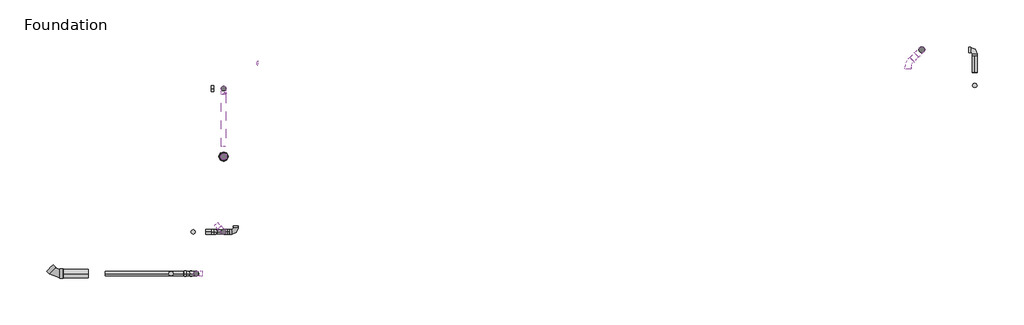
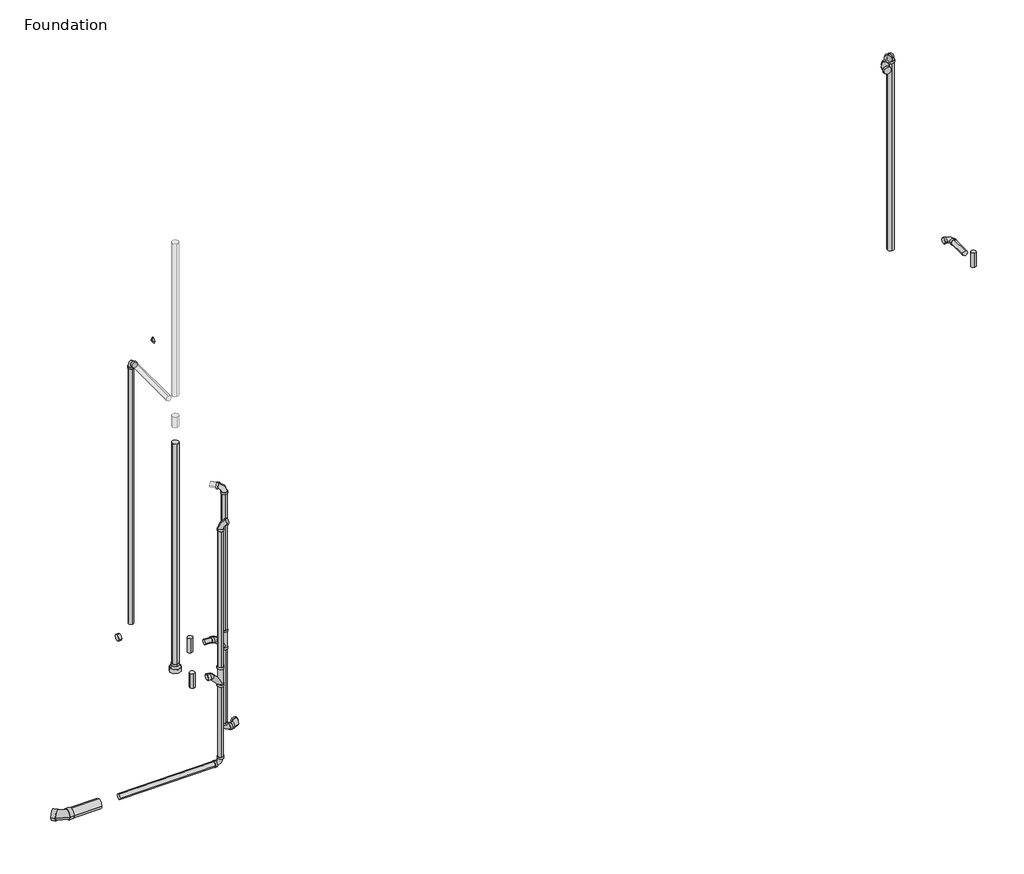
# One storey, incomplete: 22 pipe segments, 14 pipe fittings.
"""IFC4 building model written with IfcOpenShell, lengths in millimetres."""

from ifc_helpers import new_model, si_unit, point, frame, frame_2d, origin, place, context, project, spatial, circle_curve, trimmed, segment, composite_curve, outline, extrude, transform, mapped, element, save
from components import bend_pvc_sch_40_dwv_standard_230d167c, bend_pvc_sch_40_dwv_standard_71e1cde9, bend_pvc_sch_40_dwv_standard_5453613f, bend_pvc_sch_40_dwv_standard_738aab8b, bend_pvc_sch_40_dwv_standard_6980ba03, bend_pvc_sch_40_dwv_standard_78acf712, bend_pvc_sch_40_dwv_standard_75b824f9, bend_pvc_sch_40_dwv_standard_45c6c071, pipe_transition_copper_k_df3eef9c, reducer_pvc_sch_40_dwv_standard_e27c0a4c, standard_bea11b30

model = new_model("IFC4")

# Units and contexts
model_context = context("Model", 3, world=origin())
ifc_project = project(units=[si_unit("LENGTHUNIT", "METRE", prefix="MILLI")], contexts=[model_context])

# Site, building, storey
site = spatial("IfcSite", under=ifc_project)
building = spatial("IfcBuilding", under=site)
storey = spatial("IfcBuildingStorey", under=building, Name="Foundation", Elevation=-355.6)

# Pipe fittings
placement = place(None, origin())
bend_pvc_sch_40_dwv_standard_shape = bend_pvc_sch_40_dwv_standard_230d167c(model_context)
element("IfcPipeFitting", 1, ObjectType="Bend - PVC - Sch 40 - DWV : Standard", at=placement, inside=storey, context=model_context, shape_type="MappedRepresentation", body=[
    mapped(bend_pvc_sch_40_dwv_standard_shape, transform((680.7886238, 5544.3293502, 578.0503805), x_axis=(0.0, 0.9999457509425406, -0.01041610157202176), y_axis=(-0.9999999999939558, -3.621531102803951e-08, -3.476669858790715e-06), z_axis=(-3.476858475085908e-06, 0.010416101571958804, 0.9999457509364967))),
])
bend_pvc_sch_40_dwv_standard_2_shape = bend_pvc_sch_40_dwv_standard_71e1cde9(model_context)
element("IfcPipeFitting", 2, ObjectType="Bend - PVC - Sch 40 - DWV : Standard", at=placement, inside=storey, context=model_context, shape_type="MappedRepresentation", body=[
    mapped(bend_pvc_sch_40_dwv_standard_2_shape, transform((123.6124949, 5544.3293502, 2604.981292), x_axis=(0.0, 0.0, 1.0), y_axis=(-0.7071259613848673, -0.7070876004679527, 0.0), z_axis=(0.7070876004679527, -0.7071259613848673, 0.0))),
])
bend_pvc_sch_40_dwv_standard_3_shape = bend_pvc_sch_40_dwv_standard_5453613f(model_context)
element("IfcPipeFitting", 3, ObjectType="Bend - PVC - Sch 40 - DWV : Standard", at=placement, inside=storey, context=model_context, shape_type="MappedRepresentation", body=[
    mapped(bend_pvc_sch_40_dwv_standard_3_shape, transform((-20.9709, 5399.7537989, 2606.4872873), x_axis=(-0.7071067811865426, -0.7070684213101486, 0.007365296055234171), y_axis=(0.7071067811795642, -0.7070684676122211, 0.00736085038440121), z_axis=(3.1437344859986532e-06, 0.01041295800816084, 0.9999457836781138))),
])
bend_pvc_sch_40_dwv_standard_4_shape = bend_pvc_sch_40_dwv_standard_738aab8b(model_context)
element("IfcPipeFitting", 4, ObjectType="Bend - PVC - Sch 40 - DWV : Standard", at=placement, inside=storey, context=model_context, shape_type="MappedRepresentation", body=[
    mapped(bend_pvc_sch_40_dwv_standard_4_shape, transform((-7218.427007, 3626.5382812, -333.4415741), x_axis=(0.0, 0.0, -1.0), y_axis=(1.0, 0.0, 0.0), z_axis=(0.0, -1.0, 0.0))),
])
element("IfcPipeFitting", 5, ObjectType="Bend - PVC - Sch 40 - DWV : Standard", at=placement, inside=storey, context=model_context, shape_type="MappedRepresentation", body=[
    mapped(bend_pvc_sch_40_dwv_standard_4_shape, transform((-7218.392535, 5136.4368489, 2379.4582622), x_axis=(0.0, 0.0, 1.0), y_axis=(-2.4864489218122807e-05, -0.9999999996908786, 0.0), z_axis=(0.9999999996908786, -2.4864489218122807e-05, 0.0))),
])
element("IfcPipeFitting", 6, ObjectType="Bend - PVC - Sch 40 - DWV : Standard", at=placement, inside=storey, context=model_context, shape_type="MappedRepresentation", body=[
    mapped(bend_pvc_sch_40_dwv_standard_4_shape, transform((-7090.6282635, 3626.5380243, -333.4910354), x_axis=(1.0, 0.0, 0.0), y_axis=(0.0, 0.9999865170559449, -0.0051928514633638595), z_axis=(0.0, 0.0051928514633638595, 0.9999865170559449))),
])
bend_pvc_sch_40_dwv_standard_5_shape = bend_pvc_sch_40_dwv_standard_6980ba03(model_context)
element("IfcPipeFitting", 7, ObjectType="Bend - PVC - Sch 40 - DWV : Standard", at=placement, inside=storey, context=model_context, shape_type="MappedRepresentation", body=[
    mapped(bend_pvc_sch_40_dwv_standard_5_shape, transform((-7218.427698, 3626.5377459, 2055.9347465), x_axis=(0.0, 0.0, 1.0), y_axis=(-0.7071067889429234, 0.7071067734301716, 0.0), z_axis=(-0.7071067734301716, -0.7071067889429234, 0.0))),
])
bend_pvc_sch_40_dwv_standard_6_shape = bend_pvc_sch_40_dwv_standard_78acf712(model_context)
element("IfcPipeFitting", 8, ObjectType="Bend - PVC - Sch 40 - DWV : Standard", at=placement, inside=storey, context=model_context, shape_type="MappedRepresentation", body=[
    mapped(bend_pvc_sch_40_dwv_standard_6_shape, transform((-7506.7354164, 3186.6183565, -302.3827968), x_axis=(0.0, 0.0, -1.0), y_axis=(-1.0, 0.0, 0.0), z_axis=(0.0, 1.0, 0.0))),
])
bend_pvc_sch_40_dwv_standard_7_shape = bend_pvc_sch_40_dwv_standard_75b824f9(model_context)
element("IfcPipeFitting", 9, ObjectType="Bend - PVC - Sch 40 - DWV : Standard", at=placement, inside=storey, context=model_context, shape_type="MappedRepresentation", body=[
    mapped(bend_pvc_sch_40_dwv_standard_7_shape, transform((-8986.067891, 3186.6183565, -317.79251), x_axis=(0.7073973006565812, -0.7067779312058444, 0.0073494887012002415), y_axis=(0.706739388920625, 0.7074354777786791, 0.007381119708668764), z_axis=(-0.010416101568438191, -2.7211004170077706e-05, 0.9999457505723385))),
])
bend_pvc_sch_40_dwv_standard_8_shape = bend_pvc_sch_40_dwv_standard_45c6c071(model_context)
element("IfcPipeFitting", 10, ObjectType="Bend - PVC - Sch 40 - DWV : Standard", at=placement, inside=storey, context=model_context, shape_type="MappedRepresentation", body=[
    mapped(bend_pvc_sch_40_dwv_standard_8_shape, transform((-7506.7354164, 3186.6183565, 2055.9287732), x_axis=(0.0, 0.0, 1.0), y_axis=(0.9999999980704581, 6.212152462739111e-05, 0.0), z_axis=(-6.212152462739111e-05, 0.9999999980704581, 0.0))),
])
pipe_transition_copper_k_shape = pipe_transition_copper_k_df3eef9c(model_context)
element("IfcPipeFitting", 11, ObjectType="Pipe Transition : Copper- K", at=placement, inside=storey, context=model_context, shape_type="MappedRepresentation", body=[
    mapped(pipe_transition_copper_k_shape, transform((-6856.763787, 5402.6740168, 2298.1907004), x_axis=(-1.0, 0.0, 0.0), y_axis=(0.0, -1.0, 0.0), z_axis=(0.0, 0.0, 1.0))),
])
reducer_pvc_sch_40_dwv_standard_shape = reducer_pvc_sch_40_dwv_standard_e27c0a4c(model_context)
element("IfcPipeFitting", 12, ObjectType="Reducer - PVC - Sch 40 - DWV : Standard", at=placement, inside=storey, context=model_context, shape_type="MappedRepresentation", body=[
    mapped(reducer_pvc_sch_40_dwv_standard_shape, transform((-7218.0890801, 4419.0219292, -244.8610496), x_axis=(-5.7243063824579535e-06, 0.0, 0.9999999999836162), y_axis=(0.9999999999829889, -1.1201590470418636e-06, 5.724306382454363e-06), z_axis=(1.120159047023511e-06, 0.9999999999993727, 6.4121335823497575e-12))),
])
standard_shape = standard_bea11b30(model_context)
element("IfcPipeFitting", 13, ObjectType="GES Wye Combination with 8th Bend - PVC - Sch 40 - DWV : Standard", at=placement, inside=storey, context=model_context, shape_type="MappedRepresentation", body=[
    mapped(standard_shape, transform((-7218.427007, 3626.5382812, 579.3065481), x_axis=(0.0, 0.0, 1.0), y_axis=(1.0, 0.0, 0.0), z_axis=(0.0, 1.0, 0.0))),
])
element("IfcPipeFitting", 14, ObjectType="GES Wye Combination with 8th Bend - PVC - Sch 40 - DWV : Standard", at=placement, inside=storey, context=model_context, shape_type="MappedRepresentation", body=[
    mapped(standard_shape, transform((-7506.7354164, 3186.6183565, 579.3065481), x_axis=(0.0, 0.0, 1.0), y_axis=(1.0, 0.0, 0.0), z_axis=(0.0, 1.0, 0.0))),
])

# Pipe segments
element("IfcPipeSegment", 15, ObjectType="PVC - SAN/STORM", at=placement, inside=storey, context=model_context, shape_type="SweptSolid", body=[
    extrude(outline(composite_curve([segment(trimmed(circle_curve(frame_2d((0.0, -24.1299999)), 24.13), [point((24.13, -24.1299999))], [point((0.0, -48.26))], False, "CARTESIAN"), True, "CONTINUOUS"), segment(trimmed(circle_curve(frame_2d((0.0, -24.1299999)), 24.13), [point((0.0, -48.26))], [point((-24.13, -24.1299999))], False, "CARTESIAN"), True, "CONTINUOUS"), segment(trimmed(circle_curve(frame_2d((0.0, -24.1299999)), 24.13), [point((-24.13, -24.1299999))], [point((0.0, 0.0))], False, "CARTESIAN"), True, "CONTINUOUS"), segment(trimmed(circle_curve(frame_2d((0.0, -24.1299999)), 24.13), [point((0.0, 0.0))], [point((24.13, -24.1299999))], False, "CARTESIAN"), True, "CONTINUOUS")], self_intersect=False)), frame((680.7886238, 5482.6842488, 602.823826), z_axis=(0.0, -0.9999457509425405, 0.01041610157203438), x_axis=(1.0, 0.0, 0.0)), (0.0, 0.0, 1.0), 179.4002),
])
element("IfcPipeSegment", 16, ObjectType="PVC - SAN/STORM", at=placement, inside=storey, context=model_context, shape_type="SweptSolid", body=[
    extrude(outline(composite_curve([segment(trimmed(circle_curve(frame_2d((680.7886238, 5168.1176405)), 24.13), [point((656.6586238, 5168.1176405))], [point((680.7886238, 5192.2476405))], False, "CARTESIAN"), True, "CONTINUOUS"), segment(trimmed(circle_curve(frame_2d((680.7886238, 5168.1176405)), 24.13), [point((680.7886238, 5192.2476405))], [point((704.9186238, 5168.1176405))], False, "CARTESIAN"), True, "CONTINUOUS"), segment(trimmed(circle_curve(frame_2d((680.7886238, 5168.1176405)), 24.13), [point((704.9186238, 5168.1176405))], [point((680.7886238, 5143.9876405))], False, "CARTESIAN"), True, "CONTINUOUS"), segment(trimmed(circle_curve(frame_2d((680.7886238, 5168.1176405)), 24.13), [point((680.7886238, 5143.9876405))], [point((656.6586238, 5168.1176405))], False, "CARTESIAN"), True, "CONTINUOUS")], self_intersect=False)), frame((0.0, 0.0, 536.1010858), z_axis=(0.0, 0.0, 1.0), x_axis=(1.0, 0.0, 0.0)), (0.0, 0.0, 1.0), 139.7),
])
element("IfcPipeSegment", 17, ObjectType="PVC - SAN/STORM", at=placement, inside=storey, context=model_context, shape_type="SweptSolid", body=[
    extrude(outline(composite_curve([segment(trimmed(circle_curve(frame_2d((123.6124949, 5544.3293502)), 30.1625), [point((93.4499949, 5544.3293502))], [point((123.6124949, 5574.4918502))], False, "CARTESIAN"), True, "CONTINUOUS"), segment(trimmed(circle_curve(frame_2d((123.6124949, 5544.3293502)), 30.1625), [point((123.6124949, 5574.4918502))], [point((153.7749949, 5544.3293502))], False, "CARTESIAN"), True, "CONTINUOUS"), segment(trimmed(circle_curve(frame_2d((123.6124949, 5544.3293502)), 30.1625), [point((153.7749949, 5544.3293502))], [point((123.6124949, 5514.1668502))], False, "CARTESIAN"), True, "CONTINUOUS"), segment(trimmed(circle_curve(frame_2d((123.6124949, 5544.3293502)), 30.1625), [point((123.6124949, 5514.1668502))], [point((93.4499949, 5544.3293502))], False, "CARTESIAN"), True, "CONTINUOUS")], self_intersect=False)), frame((0.0, 0.0, 673.768492), z_axis=(0.0, 0.0, 1.0), x_axis=(1.0, 0.0, 0.0)), (0.0, 0.0, 1.0), 1853.4126),
])
element("IfcPipeSegment", 18, ObjectType="PVC - SAN/STORM", at=placement, inside=storey, context=model_context, shape_type="SweptSolid", body=[
    extrude(outline(composite_curve([segment(trimmed(circle_curve(frame_2d((0.0, 30.1625001)), 30.1625), [point((-30.1616818, 30.3846619))], [point((0.2221618, 60.3241818))], False, "CARTESIAN"), True, "CONTINUOUS"), segment(trimmed(circle_curve(frame_2d((0.0, 30.1625001)), 30.1625), [point((0.2221618, 60.3241818))], [point((30.1616818, 29.9403383))], False, "CARTESIAN"), True, "CONTINUOUS"), segment(trimmed(circle_curve(frame_2d((0.0, 30.1625001)), 30.1625), [point((30.1616818, 29.9403383))], [point((-0.2221618, 0.0008182))], False, "CARTESIAN"), True, "CONTINUOUS"), segment(trimmed(circle_curve(frame_2d((0.0, 30.1625001)), 30.1625), [point((-0.2221618, 0.0008182))], [point((-30.1616818, 30.3846619))], False, "CARTESIAN"), True, "CONTINUOUS")], self_intersect=False)), frame((68.5994459, 5489.00511, 2575.3934497), z_axis=(-0.7071067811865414, -0.7070684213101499, 0.007365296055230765), x_axis=(0.7071067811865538, -0.7070684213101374, 0.007365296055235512)), (0.0, 0.0, 1.0), 69.5215979),
])
element("IfcPipeSegment", 19, ObjectType="PVC - SAN/STORM", at=placement, inside=storey, context=model_context, shape_type="SweptSolid", body=[
    extrude(outline(composite_curve([segment(trimmed(circle_curve(frame_2d((3626.5382812, 579.3065481)), 24.13), [point((3602.4082812, 579.3065481))], [point((3626.5382812, 603.4365481))], False, "CARTESIAN"), True, "CONTINUOUS"), segment(trimmed(circle_curve(frame_2d((3626.5382812, 579.3065481)), 24.13), [point((3626.5382812, 603.4365481))], [point((3650.6682812, 579.3065481))], False, "CARTESIAN"), True, "CONTINUOUS"), segment(trimmed(circle_curve(frame_2d((3626.5382812, 579.3065481)), 24.13), [point((3650.6682812, 579.3065481))], [point((3626.5382812, 555.1765481))], False, "CARTESIAN"), True, "CONTINUOUS"), segment(trimmed(circle_curve(frame_2d((3626.5382812, 579.3065481)), 24.13), [point((3626.5382812, 555.1765481))], [point((3602.4082812, 579.3065481))], False, "CARTESIAN"), True, "CONTINUOUS")], self_intersect=False)), frame((-7403.5165491, 0.0, 0.0), z_axis=(1.0, 0.0, 0.0), x_axis=(0.0, 1.0, 0.0)), (0.0, 0.0, 1.0), 60.7763859),
])
element("IfcPipeSegment", 20, ObjectType="PVC - SAN/STORM", at=placement, inside=storey, context=model_context, shape_type="SweptSolid", body=[
    extrude(outline(composite_curve([segment(trimmed(circle_curve(frame_2d((-7538.4413491, 3626.5382812)), 24.13), [point((-7562.5713491, 3626.5382812))], [point((-7538.4413491, 3650.6682812))], False, "CARTESIAN"), True, "CONTINUOUS"), segment(trimmed(circle_curve(frame_2d((-7538.4413491, 3626.5382812)), 24.13), [point((-7538.4413491, 3650.6682812))], [point((-7514.3113491, 3626.5382812))], False, "CARTESIAN"), True, "CONTINUOUS"), segment(trimmed(circle_curve(frame_2d((-7538.4413491, 3626.5382812)), 24.13), [point((-7514.3113491, 3626.5382812))], [point((-7538.4413491, 3602.4082812))], False, "CARTESIAN"), True, "CONTINUOUS"), segment(trimmed(circle_curve(frame_2d((-7538.4413491, 3626.5382812)), 24.13), [point((-7538.4413491, 3602.4082812))], [point((-7562.5713491, 3626.5382812))], False, "CARTESIAN"), True, "CONTINUOUS")], self_intersect=False)), frame((0.0, 0.0, 534.8438481), z_axis=(0.0, 0.0, 1.0), x_axis=(1.0, 0.0, 0.0)), (0.0, 0.0, 1.0), 140.9572377),
])
element("IfcPipeSegment", 21, ObjectType="PVC - SAN/STORM", at=placement, inside=storey, context=model_context, shape_type="SweptSolid", body=[
    extrude(outline(composite_curve([segment(trimmed(circle_curve(frame_2d((0.0, 24.13)), 24.13), [point((-24.13, 24.13))], [point((0.0, 48.26))], False, "CARTESIAN"), True, "CONTINUOUS"), segment(trimmed(circle_curve(frame_2d((0.0, 24.13)), 24.13), [point((0.0, 48.26))], [point((24.13, 24.13))], False, "CARTESIAN"), True, "CONTINUOUS"), segment(trimmed(circle_curve(frame_2d((0.0, 24.13)), 24.13), [point((24.13, 24.13))], [point((0.0, 0.0))], False, "CARTESIAN"), True, "CONTINUOUS"), segment(trimmed(circle_curve(frame_2d((0.0, 24.13)), 24.13), [point((0.0, 0.0))], [point((-24.13, 24.13))], False, "CARTESIAN"), True, "CONTINUOUS")], self_intersect=False)), frame((-7218.427007, 3602.4082812, 647.0610385), z_axis=(-5.130539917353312e-07, -3.9741438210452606e-07, 0.9999999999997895), x_axis=(0.9999999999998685, 0.0, 5.130539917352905e-07)), (0.0, 0.0, 1.0), 1346.9738984),
])
element("IfcPipeSegment", 22, ObjectType="PVC - SAN/STORM", at=placement, inside=storey, context=model_context, shape_type="SweptSolid", body=[
    extrude(outline(composite_curve([segment(trimmed(circle_curve(frame_2d((0.0, -24.1299999)), 24.13), [point((-24.1299998, -24.1332562))], [point((-0.0032563, -2e-07))], False, "CARTESIAN"), True, "CONTINUOUS"), segment(trimmed(circle_curve(frame_2d((0.0, -24.1299999)), 24.13), [point((-0.0032563, -2e-07))], [point((24.1299998, -24.1267437))], False, "CARTESIAN"), True, "CONTINUOUS"), segment(trimmed(circle_curve(frame_2d((0.0, -24.1299999)), 24.13), [point((24.1299998, -24.1267437))], [point((0.0032562, -48.2599997))], False, "CARTESIAN"), True, "CONTINUOUS"), segment(trimmed(circle_curve(frame_2d((0.0, -24.1299999)), 24.13), [point((0.0032562, -48.2599997))], [point((-24.1299998, -24.1332562))], False, "CARTESIAN"), True, "CONTINUOUS")], self_intersect=False)), frame((-7262.1974664, 3670.3121183, 2031.8131001), z_axis=(-0.7071067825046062, 0.7071067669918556, 0.00013494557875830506), x_axis=(0.7071067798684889, 0.7071067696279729, 0.00013494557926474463)), (0.0, 0.0, 1.0), 52.2014083),
])
element("IfcPipeSegment", 23, ObjectType="PVC - SAN/STORM", at=placement, inside=storey, context=model_context, shape_type="SweptSolid", body=[
    extrude(outline(composite_curve([segment(trimmed(circle_curve(frame_2d((-7218.427007, 3626.5382812)), 24.13), [point((-7194.297007, 3626.5382812))], [point((-7218.427007, 3602.4082812))], False, "CARTESIAN"), True, "CONTINUOUS"), segment(trimmed(circle_curve(frame_2d((-7218.427007, 3626.5382812)), 24.13), [point((-7218.427007, 3602.4082812))], [point((-7242.557007, 3626.5382812))], False, "CARTESIAN"), True, "CONTINUOUS"), segment(trimmed(circle_curve(frame_2d((-7218.427007, 3626.5382812)), 24.13), [point((-7242.557007, 3626.5382812))], [point((-7218.427007, 3650.6682812))], False, "CARTESIAN"), True, "CONTINUOUS"), segment(trimmed(circle_curve(frame_2d((-7218.427007, 3626.5382812)), 24.13), [point((-7218.427007, 3650.6682812))], [point((-7194.297007, 3626.5382812))], False, "CARTESIAN"), True, "CONTINUOUS")], self_intersect=False)), frame((0.0, 0.0, -271.5417741), z_axis=(0.0, 0.0, 1.0), x_axis=(1.0, 0.0, 0.0)), (0.0, 0.0, 1.0), 728.0551973),
])
element("IfcPipeSegment", 24, ObjectType="PVC - SAN/STORM", at=placement, inside=storey, context=model_context, shape_type="SweptSolid", body=[
    extrude(outline(composite_curve([segment(trimmed(circle_curve(frame_2d((0.0, -24.13)), 24.13), [point((-0.1253046, -48.2596747))], [point((-24.1296746, -24.0046954))], False, "CARTESIAN"), True, "CONTINUOUS"), segment(trimmed(circle_curve(frame_2d((0.0, -24.13)), 24.13), [point((-24.1296746, -24.0046954))], [point((0.1253046, -0.0003254))], False, "CARTESIAN"), True, "CONTINUOUS"), segment(trimmed(circle_curve(frame_2d((0.0, -24.13)), 24.13), [point((0.1253046, -0.0003254))], [point((24.1296747, -24.2553046))], False, "CARTESIAN"), True, "CONTINUOUS"), segment(trimmed(circle_curve(frame_2d((0.0, -24.13)), 24.13), [point((24.1296747, -24.2553046))], [point((-0.1253046, -48.2596747))], False, "CARTESIAN"), True, "CONTINUOUS")], self_intersect=False)), frame((-7152.5280635, 3650.667699, -333.6163389), z_axis=(-0.9999915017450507, 2.1408431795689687e-05, 0.004122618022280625), x_axis=(0.0041226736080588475, 0.005192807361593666, 0.9999780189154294)), (0.0, 0.0, 1.0), 3.9991775),
])
element("IfcPipeSegment", 25, ObjectType="PVC - SAN/STORM", at=placement, inside=storey, context=model_context, shape_type="SweptSolid", body=[
    extrude(outline(composite_curve([segment(trimmed(circle_curve(frame_2d((0.0, 30.1625)), 30.1625), [point((-30.1625, 30.1625))], [point((0.0, 60.325))], False, "CARTESIAN"), True, "CONTINUOUS"), segment(trimmed(circle_curve(frame_2d((0.0, 30.1625)), 30.1625), [point((0.0, 60.325))], [point((30.1625, 30.1625))], False, "CARTESIAN"), True, "CONTINUOUS"), segment(trimmed(circle_curve(frame_2d((0.0, 30.1625)), 30.1625), [point((30.1625, 30.1625))], [point((0.0, 0.0))], False, "CARTESIAN"), True, "CONTINUOUS"), segment(trimmed(circle_curve(frame_2d((0.0, 30.1625)), 30.1625), [point((0.0, 0.0))], [point((-30.1625, 30.1625))], False, "CARTESIAN"), True, "CONTINUOUS")], self_intersect=False)), frame((-7218.4068974, 4388.5702261, 2482.6330622), z_axis=(-6.516036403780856e-06, 0.0, 0.9999999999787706), x_axis=(0.9999999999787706, 0.0, 6.516036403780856e-06)), (0.0, 0.0, 1.0), 1506.7381799),
])
element("IfcPipeSegment", 26, ObjectType="PVC - SAN/STORM", at=placement, inside=storey, context=model_context, shape_type="SweptSolid", body=[
    extrude(outline(composite_curve([segment(trimmed(circle_curve(frame_2d((-7218.1338831, 5136.4671175)), 24.13), [point((-7242.2638831, 5136.4671175))], [point((-7218.1338831, 5160.5971175))], False, "CARTESIAN"), True, "CONTINUOUS"), segment(trimmed(circle_curve(frame_2d((-7218.1338831, 5136.4671175)), 24.13), [point((-7218.1338831, 5160.5971175))], [point((-7194.0038831, 5136.4671175))], False, "CARTESIAN"), True, "CONTINUOUS"), segment(trimmed(circle_curve(frame_2d((-7218.1338831, 5136.4671175)), 24.13), [point((-7194.0038831, 5136.4671175))], [point((-7218.1338831, 5112.3371175))], False, "CARTESIAN"), True, "CONTINUOUS"), segment(trimmed(circle_curve(frame_2d((-7218.1338831, 5136.4671175)), 24.13), [point((-7218.1338831, 5112.3371175))], [point((-7242.2638831, 5136.4671175))], False, "CARTESIAN"), True, "CONTINUOUS")], self_intersect=False)), frame((0.0, 0.0, -207.7493189), z_axis=(0.0, 0.0, 1.0), x_axis=(1.0, 0.0, 0.0)), (0.0, 0.0, 1.0), 2525.3077811),
])
element("IfcPipeSegment", 27, ObjectType="PVC - SAN/STORM", at=placement, inside=storey, context=model_context, shape_type="SweptSolid", body=[
    extrude(outline(composite_curve([segment(trimmed(circle_curve(frame_2d((5136.4671175, -311.4496397)), 30.1625), [point((5166.6296175, -311.4496397))], [point((5136.4671175, -341.6121397))], False, "CARTESIAN"), True, "CONTINUOUS"), segment(trimmed(circle_curve(frame_2d((5136.4671175, -311.4496397)), 30.1625), [point((5136.4671175, -341.6121397))], [point((5106.3046175, -311.4496397))], False, "CARTESIAN"), True, "CONTINUOUS"), segment(trimmed(circle_curve(frame_2d((5136.4671175, -311.4496397)), 30.1625), [point((5106.3046175, -311.4496397))], [point((5136.4671175, -281.2871397))], False, "CARTESIAN"), True, "CONTINUOUS"), segment(trimmed(circle_curve(frame_2d((5136.4671175, -311.4496397)), 30.1625), [point((5136.4671175, -281.2871397))], [point((5166.6296175, -311.4496397))], False, "CARTESIAN"), True, "CONTINUOUS")], self_intersect=False)), frame((-7347.9228294, 0.0, 0.0), z_axis=(1.0, 0.0, 0.0), x_axis=(0.0, 1.0, 0.0)), (0.0, 0.0, 1.0), 26.6197435),
])
element("IfcPipeSegment", 28, ObjectType="PVC - SAN/STORM", at=placement, inside=storey, context=model_context, shape_type="SweptSolid", body=[
    extrude(outline(composite_curve([segment(trimmed(circle_curve(frame_2d((0.0, 24.13)), 24.13), [point((0.0, 48.26))], [point((24.13, 24.13))], False, "CARTESIAN"), True, "CONTINUOUS"), segment(trimmed(circle_curve(frame_2d((0.0, 24.13)), 24.13), [point((24.13, 24.13))], [point((0.0, 0.0))], False, "CARTESIAN"), True, "CONTINUOUS"), segment(trimmed(circle_curve(frame_2d((0.0, 24.13)), 24.13), [point((0.0, 0.0))], [point((-24.13, 24.13))], False, "CARTESIAN"), True, "CONTINUOUS"), segment(trimmed(circle_curve(frame_2d((0.0, 24.13)), 24.13), [point((-24.13, 24.13))], [point((0.0, 48.26))], False, "CARTESIAN"), True, "CONTINUOUS")], self_intersect=False)), frame((-7242.5362361, 4523.5082587, 2379.4582622), z_axis=(2.2071340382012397e-05, 0.999999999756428, 0.0), x_axis=(0.0, 0.0, 1.0)), (0.0, 0.0, 1.0), 551.0293229),
])
element("IfcPipeSegment", 29, ObjectType="PVC - SAN/STORM", at=placement, inside=storey, context=model_context, shape_type="SweptSolid", body=[
    extrude(outline(composite_curve([segment(trimmed(circle_curve(frame_2d((0.0, 30.1625)), 30.1625), [point((-30.1625, 30.1625))], [point((0.0, 60.325))], False, "CARTESIAN"), True, "CONTINUOUS"), segment(trimmed(circle_curve(frame_2d((0.0, 30.1625)), 30.1625), [point((0.0, 60.325))], [point((30.1625, 30.1625))], False, "CARTESIAN"), True, "CONTINUOUS"), segment(trimmed(circle_curve(frame_2d((0.0, 30.1625)), 30.1625), [point((30.1625, 30.1625))], [point((0.0, 0.0))], False, "CARTESIAN"), True, "CONTINUOUS"), segment(trimmed(circle_curve(frame_2d((0.0, 30.1625)), 30.1625), [point((0.0, 0.0))], [point((-30.1625, 30.1625))], False, "CARTESIAN"), True, "CONTINUOUS")], self_intersect=False)), frame((-7218.4058485, 4388.5708871, 2174.6163633), z_axis=(1.3015595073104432e-06, -6.5007602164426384e-06, 0.999999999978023), x_axis=(0.9999999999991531, 8.460787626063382e-12, -1.3015595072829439e-06)), (0.0, 0.0, 1.0), 101.6669028),
])
element("IfcPipeSegment", 30, ObjectType="PVC - SAN/STORM", at=placement, inside=storey, context=model_context, shape_type="SweptSolid", body=[
    extrude(outline(composite_curve([segment(trimmed(circle_curve(frame_2d((0.0, 30.1625)), 30.1625), [point((-30.1625, 30.1625))], [point((0.0, 60.325))], False, "CARTESIAN"), True, "CONTINUOUS"), segment(trimmed(circle_curve(frame_2d((0.0, 30.1625)), 30.1625), [point((0.0, 60.325))], [point((30.1625, 30.1625))], False, "CARTESIAN"), True, "CONTINUOUS"), segment(trimmed(circle_curve(frame_2d((0.0, 30.1625)), 30.1625), [point((30.1625, 30.1625))], [point((0.0, 0.0))], False, "CARTESIAN"), True, "CONTINUOUS"), segment(trimmed(circle_curve(frame_2d((0.0, 30.1625)), 30.1625), [point((0.0, 0.0))], [point((-30.1625, 30.1625))], False, "CARTESIAN"), True, "CONTINUOUS")], self_intersect=False)), frame((-7218.3925317, 4388.5708871, -165.4860513), z_axis=(-5.724306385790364e-06, 0.0, 0.9999999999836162), x_axis=(0.9999999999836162, 0.0, 5.724306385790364e-06)), (0.0, 0.0, 1.0), 2177.3084545),
])
element("IfcPipeSegment", 31, ObjectType="PVC - SAN/STORM", at=placement, inside=storey, context=model_context, shape_type="SweptSolid", body=[
    extrude(outline(composite_curve([segment(trimmed(circle_curve(frame_2d((3186.6183565, 579.3065481)), 24.13), [point((3162.4883565, 579.3065481))], [point((3186.6183565, 603.4365481))], False, "CARTESIAN"), True, "CONTINUOUS"), segment(trimmed(circle_curve(frame_2d((3186.6183565, 579.3065481)), 24.13), [point((3186.6183565, 603.4365481))], [point((3210.7483565, 579.3065481))], False, "CARTESIAN"), True, "CONTINUOUS"), segment(trimmed(circle_curve(frame_2d((3186.6183565, 579.3065481)), 24.13), [point((3210.7483565, 579.3065481))], [point((3186.6183565, 555.1765481))], False, "CARTESIAN"), True, "CONTINUOUS"), segment(trimmed(circle_curve(frame_2d((3186.6183565, 579.3065481)), 24.13), [point((3186.6183565, 555.1765481))], [point((3162.4883565, 579.3065481))], False, "CARTESIAN"), True, "CONTINUOUS")], self_intersect=False)), frame((-7636.2624586, 0.0, 0.0), z_axis=(1.0, 0.0, 0.0), x_axis=(0.0, 1.0, 0.0)), (0.0, 0.0, 1.0), 5.2138859),
])
element("IfcPipeSegment", 32, ObjectType="PVC - SAN/STORM", at=placement, inside=storey, context=model_context, shape_type="SweptSolid", body=[
    extrude(outline(composite_curve([segment(trimmed(circle_curve(frame_2d((-7771.1872586, 3186.5447806)), 24.13), [point((-7795.3172586, 3186.5447806))], [point((-7771.1872586, 3210.6747806))], False, "CARTESIAN"), True, "CONTINUOUS"), segment(trimmed(circle_curve(frame_2d((-7771.1872586, 3186.5447806)), 24.13), [point((-7771.1872586, 3210.6747806))], [point((-7747.0572586, 3186.5447806))], False, "CARTESIAN"), True, "CONTINUOUS"), segment(trimmed(circle_curve(frame_2d((-7771.1872586, 3186.5447806)), 24.13), [point((-7747.0572586, 3186.5447806))], [point((-7771.1872586, 3162.4147806))], False, "CARTESIAN"), True, "CONTINUOUS"), segment(trimmed(circle_curve(frame_2d((-7771.1872586, 3186.5447806)), 24.13), [point((-7771.1872586, 3162.4147806))], [point((-7795.3172586, 3186.5447806))], False, "CARTESIAN"), True, "CONTINUOUS")], self_intersect=False)), frame((0.0, 0.0, 534.8438481), z_axis=(0.0, 0.0, 1.0), x_axis=(1.0, 0.0, 0.0)), (0.0, 0.0, 1.0), 140.9572377),
])
element("IfcPipeSegment", 33, ObjectType="PVC - SAN/STORM", at=placement, inside=storey, context=model_context, shape_type="SweptSolid", body=[
    extrude(outline(composite_curve([segment(trimmed(circle_curve(frame_2d((-7506.7354164, 3186.6183565)), 24.13), [point((-7530.8654164, 3186.6183565))], [point((-7506.7354164, 3210.7483565))], False, "CARTESIAN"), True, "CONTINUOUS"), segment(trimmed(circle_curve(frame_2d((-7506.7354164, 3186.6183565)), 24.13), [point((-7506.7354164, 3210.7483565))], [point((-7482.6054164, 3186.6183565))], False, "CARTESIAN"), True, "CONTINUOUS"), segment(trimmed(circle_curve(frame_2d((-7506.7354164, 3186.6183565)), 24.13), [point((-7482.6054164, 3186.6183565))], [point((-7506.7354164, 3162.4883565))], False, "CARTESIAN"), True, "CONTINUOUS"), segment(trimmed(circle_curve(frame_2d((-7506.7354164, 3186.6183565)), 24.13), [point((-7506.7354164, 3162.4883565))], [point((-7530.8654164, 3186.6183565))], False, "CARTESIAN"), True, "CONTINUOUS")], self_intersect=False)), frame((0.0, 0.0, 647.0610481), z_axis=(0.0, 0.0, 1.0), x_axis=(1.0, 0.0, 0.0)), (0.0, 0.0, 1.0), 1346.9679251),
])
element("IfcPipeSegment", 34, ObjectType="PVC - SAN/STORM", at=placement, inside=storey, context=model_context, shape_type="SweptSolid", body=[
    extrude(outline(composite_curve([segment(trimmed(circle_curve(frame_2d((-7506.7354164, 3186.6183565)), 24.13), [point((-7482.6054164, 3186.6183565))], [point((-7506.7354164, 3162.4883565))], False, "CARTESIAN"), True, "CONTINUOUS"), segment(trimmed(circle_curve(frame_2d((-7506.7354164, 3186.6183565)), 24.13), [point((-7506.7354164, 3162.4883565))], [point((-7530.8654164, 3186.6183565))], False, "CARTESIAN"), True, "CONTINUOUS"), segment(trimmed(circle_curve(frame_2d((-7506.7354164, 3186.6183565)), 24.13), [point((-7530.8654164, 3186.6183565))], [point((-7506.7354164, 3210.7483565))], False, "CARTESIAN"), True, "CONTINUOUS"), segment(trimmed(circle_curve(frame_2d((-7506.7354164, 3186.6183565)), 24.13), [point((-7506.7354164, 3210.7483565))], [point((-7482.6054164, 3186.6183565))], False, "CARTESIAN"), True, "CONTINUOUS")], self_intersect=False)), frame((0.0, 0.0, -240.4829968), z_axis=(0.0, 0.0, 1.0), x_axis=(1.0, 0.0, 0.0)), (0.0, 0.0, 1.0), 696.9964199),
])
element("IfcPipeSegment", 35, ObjectType="PVC - SAN/STORM", at=placement, inside=storey, context=model_context, shape_type="SweptSolid", body=[
    extrude(outline(composite_curve([segment(trimmed(circle_curve(frame_2d((0.0, -44.45)), 44.45), [point((0.0, 0.0))], [point((44.4500001, -44.45))], False, "CARTESIAN"), True, "CONTINUOUS"), segment(trimmed(circle_curve(frame_2d((0.0, -44.45)), 44.45), [point((44.4500001, -44.45))], [point((0.0, -88.9))], False, "CARTESIAN"), True, "CONTINUOUS"), segment(trimmed(circle_curve(frame_2d((0.0, -44.45)), 44.45), [point((0.0, -88.9))], [point((-44.45, -44.45))], False, "CARTESIAN"), True, "CONTINUOUS"), segment(trimmed(circle_curve(frame_2d((0.0, -44.45)), 44.45), [point((-44.45, -44.45))], [point((0.0, 0.0))], False, "CARTESIAN"), True, "CONTINUOUS")], self_intersect=False)), frame((-8903.5223693, 3231.0683565, -316.9326608), z_axis=(0.9999457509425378, 0.0, 0.010416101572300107), x_axis=(0.010416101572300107, 0.0, -0.9999457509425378)), (0.0, 0.0, 1.0), 261.7278503),
])
element("IfcPipeSegment", 36, ObjectType="PVC - SAN/STORM", at=placement, inside=storey, context=model_context, shape_type="SweptSolid", body=[
    extrude(outline(composite_curve([segment(trimmed(circle_curve(frame_2d((0.0, -24.13)), 24.13), [point((0.0, 0.0))], [point((24.1299999, -24.13))], False, "CARTESIAN"), True, "CONTINUOUS"), segment(trimmed(circle_curve(frame_2d((0.0, -24.13)), 24.13), [point((24.1299999, -24.13))], [point((0.0, -48.26))], False, "CARTESIAN"), True, "CONTINUOUS"), segment(trimmed(circle_curve(frame_2d((0.0, -24.13)), 24.13), [point((0.0, -48.26))], [point((-24.13, -24.13))], False, "CARTESIAN"), True, "CONTINUOUS"), segment(trimmed(circle_curve(frame_2d((0.0, -24.13)), 24.13), [point((-24.13, -24.13))], [point((0.0, 0.0))], False, "CARTESIAN"), True, "CONTINUOUS")], self_intersect=False)), frame((-8460.050622, 3210.7483565, -312.3131635), z_axis=(0.9999457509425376, 0.0, 0.01041610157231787), x_axis=(0.01041610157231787, 0.0, -0.9999457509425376)), (0.0, 0.0, 1.0), 891.4671248),
])

save(model, "model.ifc")
